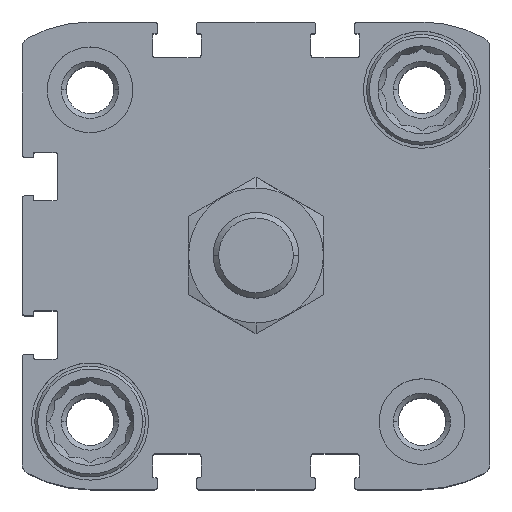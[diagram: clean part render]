
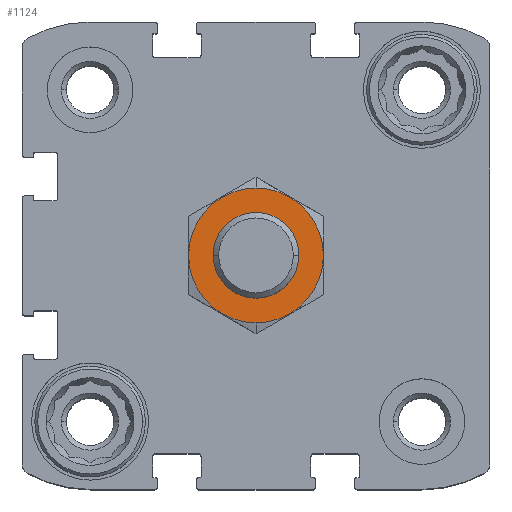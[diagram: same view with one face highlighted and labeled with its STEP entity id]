
A CAD part, top view. The second image highlights one B-rep face of the part: STEP entity #1124.
In plain terms, the highlighted planar face has unit normal (0, 0, 1).
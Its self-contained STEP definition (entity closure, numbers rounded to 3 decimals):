
#192 = DIRECTION ( 'NONE',  ( 0., 1., 0. ) ) ;
#304 = CIRCLE ( 'NONE', #3142, 9.45 ) ;
#331 = CARTESIAN_POINT ( 'NONE',  ( 0., 0., 19.5 ) ) ;
#754 = CARTESIAN_POINT ( 'NONE',  ( 0., 0., 19.5 ) ) ;
#1124 = ADVANCED_FACE ( 'NONE', ( #8424, #8594 ), #6788, .F. ) ;
#1164 = ORIENTED_EDGE ( 'NONE', *, *, #2285, .F. ) ;
#1241 = DIRECTION ( 'NONE',  ( 0., 0., -1. ) ) ;
#1281 = CIRCLE ( 'NONE', #11296, 6. ) ;
#1844 = EDGE_CURVE ( 'NONE', #8432, #15176, #1281, .T. ) ;
#2285 = EDGE_CURVE ( 'NONE', #16523, #14532, #304, .T. ) ;
#2725 = CARTESIAN_POINT ( 'NONE',  ( 0., 0., 19.5 ) ) ;
#3034 = DIRECTION ( 'NONE',  ( 0., 0., -1. ) ) ;
#3142 = AXIS2_PLACEMENT_3D ( 'NONE', #331, #3034, #8328 ) ;
#3608 = CIRCLE ( 'NONE', #13321, 9.45 ) ;
#4676 = DIRECTION ( 'NONE',  ( 0., 1., 0. ) ) ;
#4688 = EDGE_LOOP ( 'NONE', ( #16142, #1164 ) ) ;
#4801 = DIRECTION ( 'NONE',  ( 0., 1., 0. ) ) ;
#5705 = CARTESIAN_POINT ( 'NONE',  ( 0., -9.45, 19.5 ) ) ;
#6788 = PLANE ( 'NONE',  #13291 ) ;
#7266 = CIRCLE ( 'NONE', #11415, 6. ) ;
#8328 = DIRECTION ( 'NONE',  ( 0., 1., 0. ) ) ;
#8424 = FACE_OUTER_BOUND ( 'NONE', #4688, .T. ) ;
#8432 = VERTEX_POINT ( 'NONE', #14280 ) ;
#8594 = FACE_BOUND ( 'NONE', #12448, .T. ) ;
#8627 = CARTESIAN_POINT ( 'NONE',  ( 0., 0., 19.5 ) ) ;
#9007 = CARTESIAN_POINT ( 'NONE',  ( 0., -6., 19.5 ) ) ;
#9840 = DIRECTION ( 'NONE',  ( 0., 0., -1. ) ) ;
#10507 = ORIENTED_EDGE ( 'NONE', *, *, #11827, .T. ) ;
#11296 = AXIS2_PLACEMENT_3D ( 'NONE', #2725, #1241, #192 ) ;
#11369 = DIRECTION ( 'NONE',  ( 0., 0., -1. ) ) ;
#11415 = AXIS2_PLACEMENT_3D ( 'NONE', #8627, #9840, #4801 ) ;
#11827 = EDGE_CURVE ( 'NONE', #15176, #8432, #7266, .T. ) ;
#12011 = CARTESIAN_POINT ( 'NONE',  ( 0., 0., 19.5 ) ) ;
#12448 = EDGE_LOOP ( 'NONE', ( #10507, #13726 ) ) ;
#12502 = DIRECTION ( 'NONE',  ( 0., 1., 0. ) ) ;
#13291 = AXIS2_PLACEMENT_3D ( 'NONE', #12011, #15120, #12502 ) ;
#13321 = AXIS2_PLACEMENT_3D ( 'NONE', #754, #11369, #4676 ) ;
#13726 = ORIENTED_EDGE ( 'NONE', *, *, #1844, .T. ) ;
#14280 = CARTESIAN_POINT ( 'NONE',  ( 0., 6., 19.5 ) ) ;
#14532 = VERTEX_POINT ( 'NONE', #14688 ) ;
#14688 = CARTESIAN_POINT ( 'NONE',  ( 0., 9.45, 19.5 ) ) ;
#15120 = DIRECTION ( 'NONE',  ( 0., 0., -1. ) ) ;
#15176 = VERTEX_POINT ( 'NONE', #9007 ) ;
#16142 = ORIENTED_EDGE ( 'NONE', *, *, #16254, .F. ) ;
#16254 = EDGE_CURVE ( 'NONE', #14532, #16523, #3608, .T. ) ;
#16523 = VERTEX_POINT ( 'NONE', #5705 ) ;
